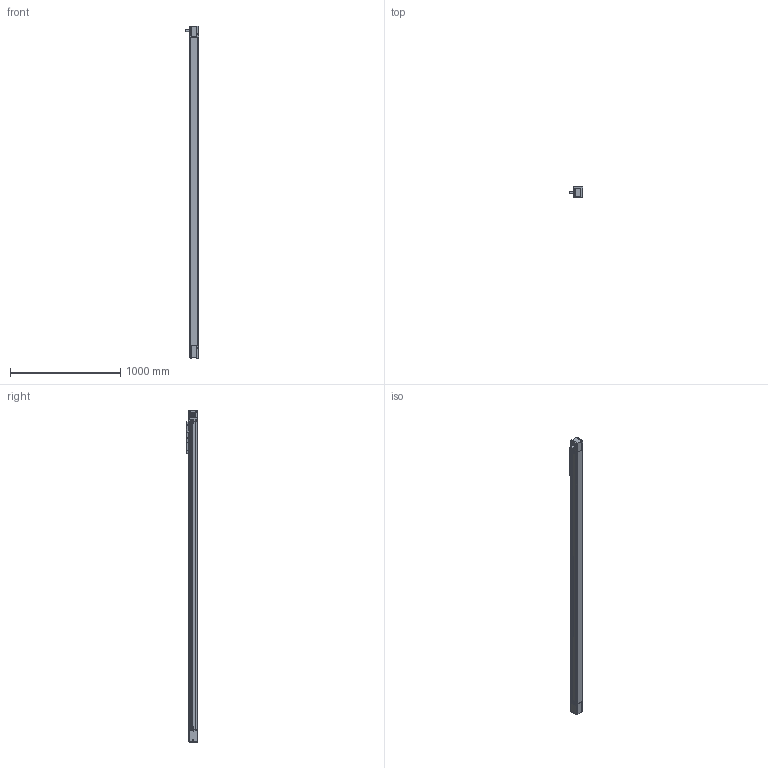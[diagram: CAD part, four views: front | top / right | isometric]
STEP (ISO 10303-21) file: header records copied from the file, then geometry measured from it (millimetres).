
FILE_DESCRIPTION(/* description */ ('STEP AP214'),/* implementation_level */ '2;1');
FILE_NAME(/* name */ 'MTJ 80 2500 L 10L 1(0)',/* time_stamp */ '2026-03-02T16:33:54+01:00',/* author */ ('License CC BY-ND 4.0'),/* organization */ ('CADENAS'),/* preprocessor_version */ 'ST-DEVELOPER v20',/* originating_system */ 'PARTsolutions',/* authorisation */ ' ');
FILE_SCHEMA (('AUTOMOTIVE_DESIGN {1 0 10303 214 3 1 1}'));
Length unit declared in the file: millimetre
Products named in the file (6): MTJ 80 2500 L 10L 1(0); MTJ 80 10L_drive_block; MTJ 80 2500 L(0)_profil; MTJ 80_end_block; MTJ 80 L_carriage; MTJ 80 2500 L 10L(0)_protection_strip
Assembly tree (5 placements, depth 2):
  MTJ 80 2500 L 10L 1(0)
    MTJ 80 10L_drive_block
    MTJ 80 2500 L(0)_profil
    MTJ 80_end_block
    MTJ 80 L_carriage
    MTJ 80 2500 L 10L(0)_protection_strip
Bounding box: 119.75 x 100 x 3017 mm (x, y, z)
Volume: 17716231.9 mm3; surface area: 1942480.9 mm2
Topology: 5 solids, 5 shells, 841 faces, 2102 edges, 1353 vertices
Faces by surface type: plane 490, cylinder 260, cone 68, sphere 14, torus 9
Full cylindrical faces by diameter (mm): 0.5 x2, 2.5 x1, 3.24 x4, 3.242 x8, 4 x4, 4.24 x2, 4.917 x12, 6.647 x8, 8 x2, 8.38 x2, 9 x6, 9.43 x8, 9.8 x6, 10 x12, 10.38 x2, 10.5 x8, 11 x10, 12 x2, 16 x4, 16.1 x4, 18 x1, 30 x2, 32 x2, 50 x2
Entity records: 29450 total; most frequent: DIRECTION 4082, CARTESIAN_POINT 4018, ORIENTED_EDGE 3676, EDGE_CURVE 1838, AXIS2_PLACEMENT_3D 1401, VERTEX_POINT 1319, LINE 1280, VECTOR 1280
